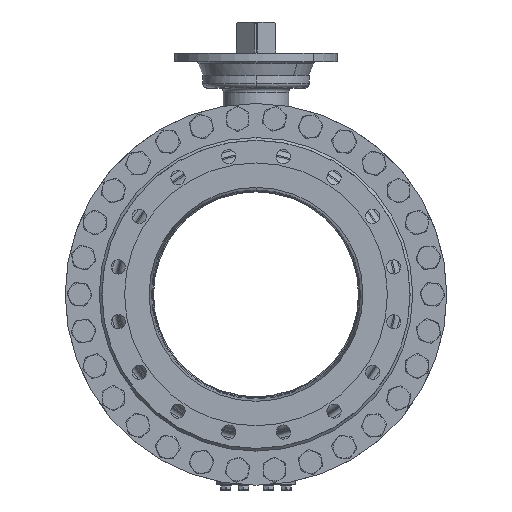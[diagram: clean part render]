
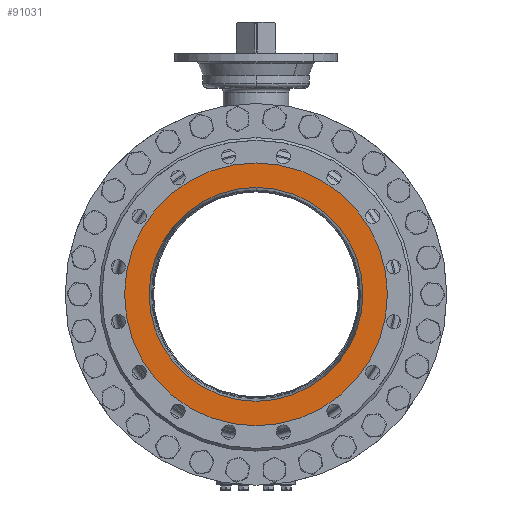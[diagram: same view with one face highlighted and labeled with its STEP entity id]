
A CAD part, left-side view. The second image highlights one B-rep face of the part: STEP entity #91031.
In plain terms, the highlighted planar face has unit normal (-1, 0, 0).
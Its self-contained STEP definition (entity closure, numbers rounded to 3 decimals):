
#14272=CARTESIAN_POINT('',(-381.,0.,0.));
#14273=DIRECTION('',(1.,0.,0.));
#14274=DIRECTION('',(0.,0.,1.));
#14275=AXIS2_PLACEMENT_3D('',#14272,#14273,#14274);
#14277=CARTESIAN_POINT('',(-381.,0.,0.));
#14278=DIRECTION('',(1.,0.,0.));
#14279=DIRECTION('',(0.,0.,-1.));
#14280=AXIS2_PLACEMENT_3D('',#14277,#14278,#14279);
#14282=CARTESIAN_POINT('',(-381.,0.,0.));
#14283=DIRECTION('',(1.,0.,0.));
#14284=DIRECTION('',(0.,0.,1.));
#14285=AXIS2_PLACEMENT_3D('',#14282,#14283,#14284);
#14287=CARTESIAN_POINT('',(-381.,0.,0.));
#14288=DIRECTION('',(-1.,0.,0.));
#14289=DIRECTION('',(0.,0.,1.));
#14290=AXIS2_PLACEMENT_3D('',#14287,#14288,#14289);
#63122=CARTESIAN_POINT('',(-381.,0.,196.1));
#63124=VERTEX_POINT('',#63122);
#63126=CARTESIAN_POINT('',(-381.,0.,-196.1));
#63128=VERTEX_POINT('',#63126);
#63157=CARTESIAN_POINT('',(-381.,0.,241.));
#63158=CARTESIAN_POINT('',(-381.,0.,-241.));
#63159=VERTEX_POINT('',#63157);
#63160=VERTEX_POINT('',#63158);
#91016=CARTESIAN_POINT('',(-381.,0.,0.));
#91017=DIRECTION('',(-1.,0.,0.));
#91018=DIRECTION('',(0.,0.,-1.));
#91019=AXIS2_PLACEMENT_3D('',#91016,#91017,#91018);
#91020=PLANE('',#91019);
#91022=ORIENTED_EDGE('',*,*,#91021,.T.);
#91024=ORIENTED_EDGE('',*,*,#91023,.T.);
#91025=EDGE_LOOP('',(#91022,#91024));
#91026=FACE_OUTER_BOUND('',#91025,.F.);
#91027=ORIENTED_EDGE('',*,*,#90995,.F.);
#91028=ORIENTED_EDGE('',*,*,#91011,.T.);
#91029=EDGE_LOOP('',(#91027,#91028));
#91030=FACE_BOUND('',#91029,.F.);
#91031=ADVANCED_FACE('',(#91026,#91030),#91020,.T.);
#14276=CIRCLE('',#14275,241.);
#14281=CIRCLE('',#14280,241.);
#14286=CIRCLE('',#14285,196.1);
#14291=CIRCLE('',#14290,196.1);
#90995=EDGE_CURVE('',#63124,#63128,#14286,.T.);
#91011=EDGE_CURVE('',#63124,#63128,#14291,.T.);
#91021=EDGE_CURVE('',#63159,#63160,#14276,.T.);
#91023=EDGE_CURVE('',#63160,#63159,#14281,.T.);
